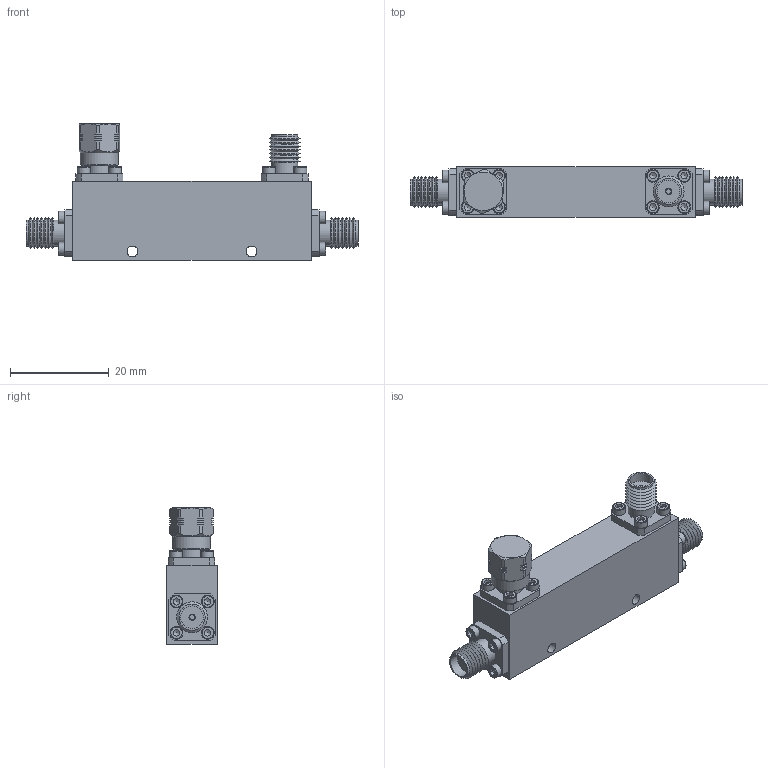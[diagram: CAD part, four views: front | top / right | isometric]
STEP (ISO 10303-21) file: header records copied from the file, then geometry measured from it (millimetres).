
FILE_DESCRIPTION(/* description */ ('Unknown'),/* implementation_level */ '2;1');
FILE_NAME(/* name */ 'DETI_MICROWAVE_DIRECTIONAL_COUPLER_011062_STEP',/* time_stamp */ '2021-06-08T15:10:08+02:00',/* author */ ('ALG'),/* organization */ ('DETI'),/* preprocessor_version */ 'ST-DEVELOPER v16.7',/* originating_system */ 'Solid Edge',/* authorisation */ 'Unknown');
FILE_SCHEMA (('AUTOMOTIVE_DESIGN {1 0 10303 214 3 1 1}'));
Length unit declared in the file: millimetre
Products named in the file (1): CD-1-2000-18000-40-50-SF-SF-SF2
Bounding box: 67.3 x 10.3 x 27.7 mm (x, y, z)
Volume: 9451.2 mm3; surface area: 5035 mm2
Topology: 1 solids, 26 shells, 450 faces, 1063 edges, 695 vertices
Faces by surface type: plane 204, cylinder 130, cone 100, torus 16
Full cylindrical faces by diameter (mm): 0.93 x1, 1.1 x4, 1.27 x7, 1.4 x16, 1.8 x16, 2.2 x2, 2.6 x16, 4.1 x4, 4.56 x1, 4.6 x4, 5.3 x7, 5.59 x3, 6.425 x1, 6.6 x1, 7.7 x1
Entity records: 15132 total; most frequent: CARTESIAN_POINT 2379, DIRECTION 1886, ORIENTED_EDGE 1624, EDGE_CURVE 812, AXIS2_PLACEMENT_3D 779, FACE_BOUND 724, EDGE_LOOP 708, VERTEX_POINT 636
